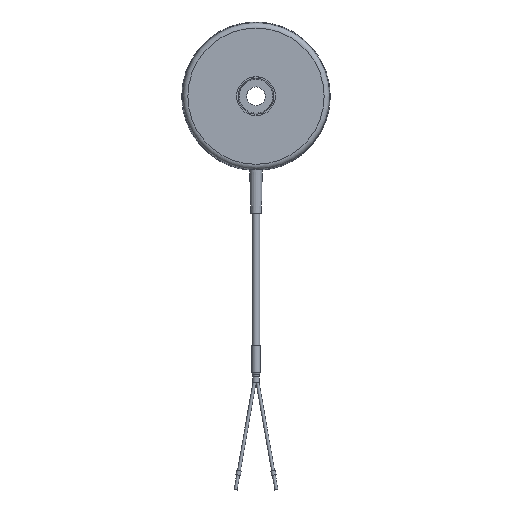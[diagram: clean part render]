
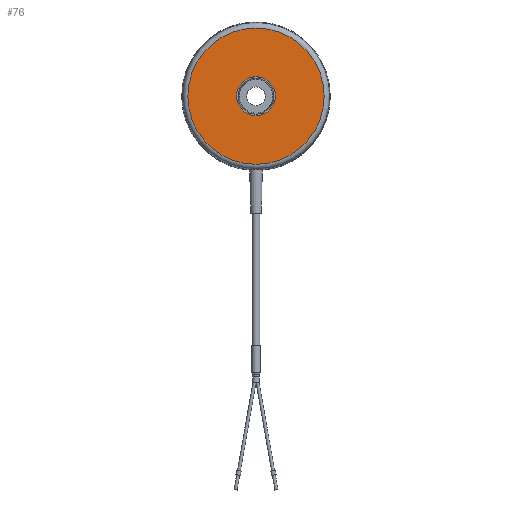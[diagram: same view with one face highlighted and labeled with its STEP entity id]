
A CAD part, top view. The second image highlights one B-rep face of the part: STEP entity #76.
In plain terms, the highlighted planar face has unit normal (0, 0, 1).
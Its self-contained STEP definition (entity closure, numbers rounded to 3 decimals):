
#76 = ADVANCED_FACE( '', ( #150, #151 ), #152, .T. );
#150 = FACE_BOUND( '', #339, .T. );
#151 = FACE_OUTER_BOUND( '', #340, .T. );
#152 = PLANE( '', #341 );
#339 = EDGE_LOOP( '', ( #533 ) );
#340 = EDGE_LOOP( '', ( #534 ) );
#341 = AXIS2_PLACEMENT_3D( '', #535, #536, #537 );
#533 = ORIENTED_EDGE( '', *, *, #890, .T. );
#534 = ORIENTED_EDGE( '', *, *, #891, .F. );
#535 = CARTESIAN_POINT( '', ( 0., 45.662, 40. ) );
#536 = DIRECTION( '', ( 0., 0., 1. ) );
#537 = DIRECTION( '', ( 1., 0., 0. ) );
#890 = EDGE_CURVE( '', #981, #981, #982, .T. );
#891 = EDGE_CURVE( '', #983, #983, #984, .T. );
#981 = VERTEX_POINT( '', #1136 );
#982 = CIRCLE( '', #1137, 13. );
#983 = VERTEX_POINT( '', #1138 );
#984 = CIRCLE( '', #1139, 45.662 );
#1136 = CARTESIAN_POINT( '', ( -13., 0., 40. ) );
#1137 = AXIS2_PLACEMENT_3D( '', #1500, #1501, #1502 );
#1138 = CARTESIAN_POINT( '', ( -45.662, 0., 40. ) );
#1139 = AXIS2_PLACEMENT_3D( '', #1503, #1504, #1505 );
#1500 = CARTESIAN_POINT( '', ( 0., 0., 40. ) );
#1501 = DIRECTION( '', ( 0., 0., -1. ) );
#1502 = DIRECTION( '', ( -1., 0., 0. ) );
#1503 = CARTESIAN_POINT( '', ( 0., 0., 40. ) );
#1504 = DIRECTION( '', ( 0., 0., -1. ) );
#1505 = DIRECTION( '', ( -1., 0., 0. ) );
